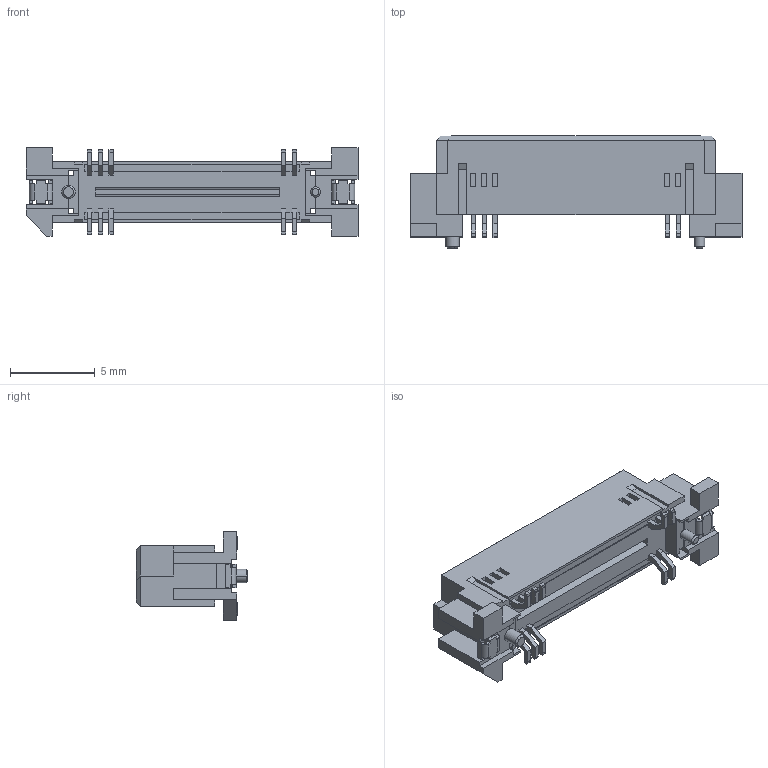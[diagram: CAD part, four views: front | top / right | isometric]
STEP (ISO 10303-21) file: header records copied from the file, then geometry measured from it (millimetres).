
FILE_DESCRIPTION((''),'2;1');
FILE_NAME('534810479','2007-11-28T',('mhm01'),(''),'PRO/ENGINEER BY PARAMETRIC TECHNOLOGY CORPORATION, 2003451','PRO/ENGINEER BY PARAMETRIC TECHNOLOGY CORPORATION, 2003451','');
FILE_SCHEMA(('CONFIG_CONTROL_DESIGN'));
Length unit declared in the file: millimetre
Products named in the file (1): 534810479
Bounding box: 19.57 x 6.6 x 5.2 mm (x, y, z)
Volume: 182.6 mm3; surface area: 616 mm2
Topology: 1 solids, 1 shells, 444 faces, 1338 edges, 897 vertices
Faces by surface type: plane 428, cylinder 12, cone 4
Entity records: 14679 total; most frequent: CARTESIAN_POINT 2624, ORIENTED_EDGE 2568, DIRECTION 2264, VECTOR 1302, LINE 1302, EDGE_CURVE 1284, VERTEX_POINT 841, AXIS2_PLACEMENT_3D 481
